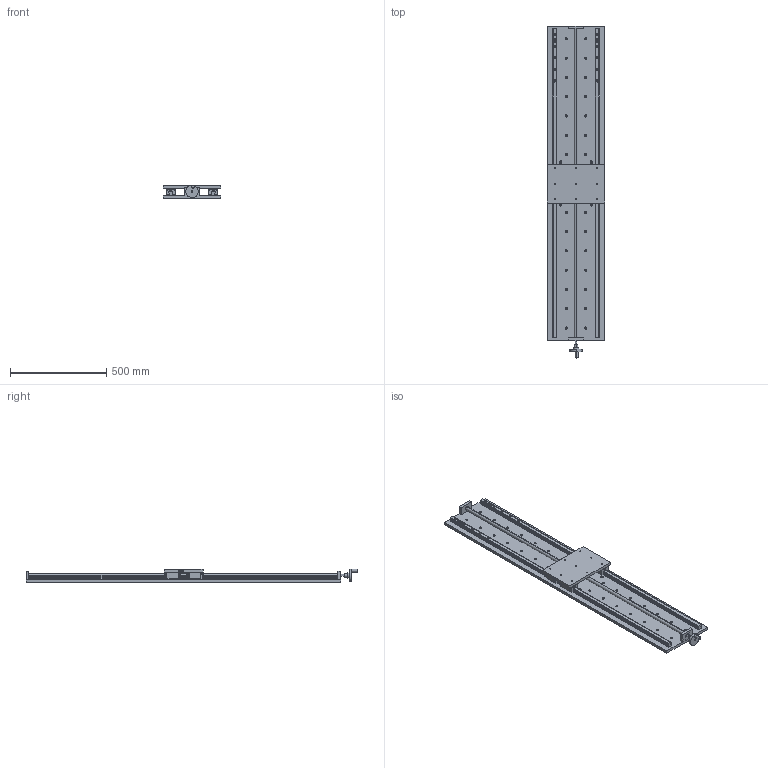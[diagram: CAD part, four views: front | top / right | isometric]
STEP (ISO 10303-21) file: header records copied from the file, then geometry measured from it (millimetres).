
FILE_DESCRIPTION (( 'STEP AP214' ), '1' );
FILE_NAME ('PT300-1400.STEP', '2022-09-18T06:32:21', ( '' ), ( '' ), 'SwSTEP 2.0', 'SolidWorks 2017', '' );
FILE_SCHEMA (( 'AUTOMOTIVE_DESIGN' ));
Length unit declared in the file: millimetre
Products named in the file (12): HGR25_temp-1400; HGH25C__X2_53F35C01_X0__temp; 標踡輸; 醱啣; PT300-1400; 34320001; 忒謫; 標踡; HGH25CA2R300Z0C_GW202204023669; HGH25C__X2_5DE65C01_X0__temp; M6H; 菁啣-1400
Assembly tree (12 placements, depth 3):
  PT300-1400
    菁啣-1400
    醱啣
    HGH25CA2R300Z0C_GW202204023669  x2
      HGR25_temp-1400
      HGH25C__X2_53F35C01_X0__temp
      M6H
      HGH25C__X2_5DE65C01_X0__temp
      34320001
    標踡
      標踡輸
      忒謫
Bounding box: 300 x 1722.1 x 70.06 mm (x, y, z)
Volume: 10659215.7 mm3; surface area: 1744150 mm2
Topology: 31 solids, 33 shells, 3129 faces, 8734 edges, 5766 vertices
Faces by surface type: plane 2009, cylinder 854, bspline 202, cone 56, torus 8
Entity records: 76661 total; most frequent: CARTESIAN_POINT 15306, ORIENTED_EDGE 9808, DIRECTION 9000, EDGE_CURVE 4904, LINE 3478, VECTOR 3478, VERTEX_POINT 3255, AXIS2_PLACEMENT_3D 2761
